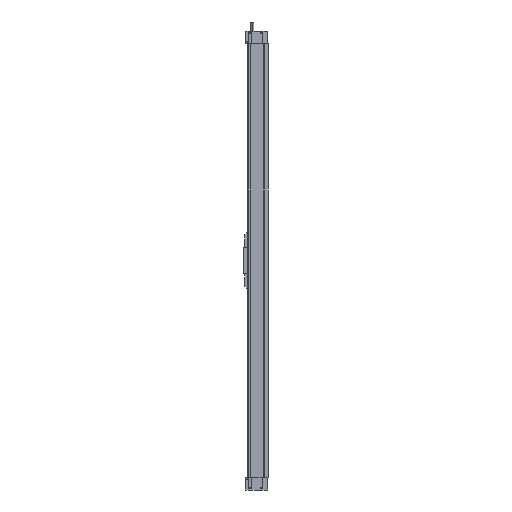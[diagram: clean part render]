
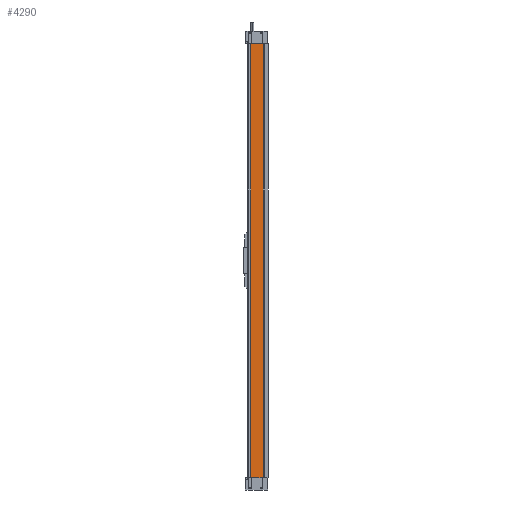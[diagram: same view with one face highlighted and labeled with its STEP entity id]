
A CAD part, left-side view. The second image highlights one B-rep face of the part: STEP entity #4290.
In plain terms, the highlighted planar face has unit normal (-1, 0, 0).
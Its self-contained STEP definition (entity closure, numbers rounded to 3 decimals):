
#2264 = LINE ( 'NONE', #2345, #2344 ) ;
#2319 = CARTESIAN_POINT ( 'NONE',  ( -32.5, -16.45, 0. ) ) ;
#2336 = CARTESIAN_POINT ( 'NONE',  ( -32.5, 24.15, 0. ) ) ;
#2343 = DIRECTION ( 'NONE',  ( 0., -1., 0. ) ) ;
#2344 = VECTOR ( 'NONE', #2343, 1000. ) ;
#2345 = CARTESIAN_POINT ( 'NONE',  ( -32.5, -16.45, 0. ) ) ;
#3189 = VERTEX_POINT ( 'NONE', #7860 ) ;
#3191 = EDGE_CURVE ( 'NONE', #3192, #3189, #7858, .T. ) ;
#3192 = VERTEX_POINT ( 'NONE', #7853 ) ;
#4159 = ORIENTED_EDGE ( 'NONE', *, *, #4298, .T. ) ;
#4169 = ORIENTED_EDGE ( 'NONE', *, *, #7186, .T. ) ;
#4281 = EDGE_LOOP ( 'NONE', ( #4169, #4286, #4288, #4159 ) ) ;
#4286 = ORIENTED_EDGE ( 'NONE', *, *, #4289, .F. ) ;
#4288 = ORIENTED_EDGE ( 'NONE', *, *, #3191, .F. ) ;
#4289 = EDGE_CURVE ( 'NONE', #3189, #7199, #9653, .T. ) ;
#4290 = ADVANCED_FACE ( 'NONE', ( #9647 ), #9635, .F. ) ;
#4298 = EDGE_CURVE ( 'NONE', #3192, #7214, #9689, .T. ) ;
#7186 = EDGE_CURVE ( 'NONE', #7214, #7199, #2264, .T. ) ;
#7199 = VERTEX_POINT ( 'NONE', #2319 ) ;
#7214 = VERTEX_POINT ( 'NONE', #2336 ) ;
#7849 = DIRECTION ( 'NONE',  ( 0., -1., 0. ) ) ;
#7850 = VECTOR ( 'NONE', #7849, 1000. ) ;
#7851 = CARTESIAN_POINT ( 'NONE',  ( -32.5, -16.45, 1400. ) ) ;
#7853 = CARTESIAN_POINT ( 'NONE',  ( -32.5, 24.15, 1400. ) ) ;
#7858 = LINE ( 'NONE', #7851, #7850 ) ;
#7860 = CARTESIAN_POINT ( 'NONE',  ( -32.5, -16.45, 1400. ) ) ;
#9632 = DIRECTION ( 'NONE',  ( 0., 0., -1. ) ) ;
#9633 = DIRECTION ( 'NONE',  ( 1., 0., 0. ) ) ;
#9635 = PLANE ( 'NONE',  #9644 ) ;
#9636 = DIRECTION ( 'NONE',  ( 0., 0., -1. ) ) ;
#9637 = VECTOR ( 'NONE', #9636, 1000. ) ;
#9641 = CARTESIAN_POINT ( 'NONE',  ( -32.5, -16.45, 1400. ) ) ;
#9644 = AXIS2_PLACEMENT_3D ( 'NONE', #9660, #9633, #9632 ) ;
#9647 = FACE_OUTER_BOUND ( 'NONE', #4281, .T. ) ;
#9653 = LINE ( 'NONE', #9641, #9637 ) ;
#9660 = CARTESIAN_POINT ( 'NONE',  ( -32.5, -16.45, 1400. ) ) ;
#9677 = DIRECTION ( 'NONE',  ( 0., 0., -1. ) ) ;
#9678 = VECTOR ( 'NONE', #9677, 1000. ) ;
#9679 = CARTESIAN_POINT ( 'NONE',  ( -32.5, 24.15, 1400. ) ) ;
#9689 = LINE ( 'NONE', #9679, #9678 ) ;
